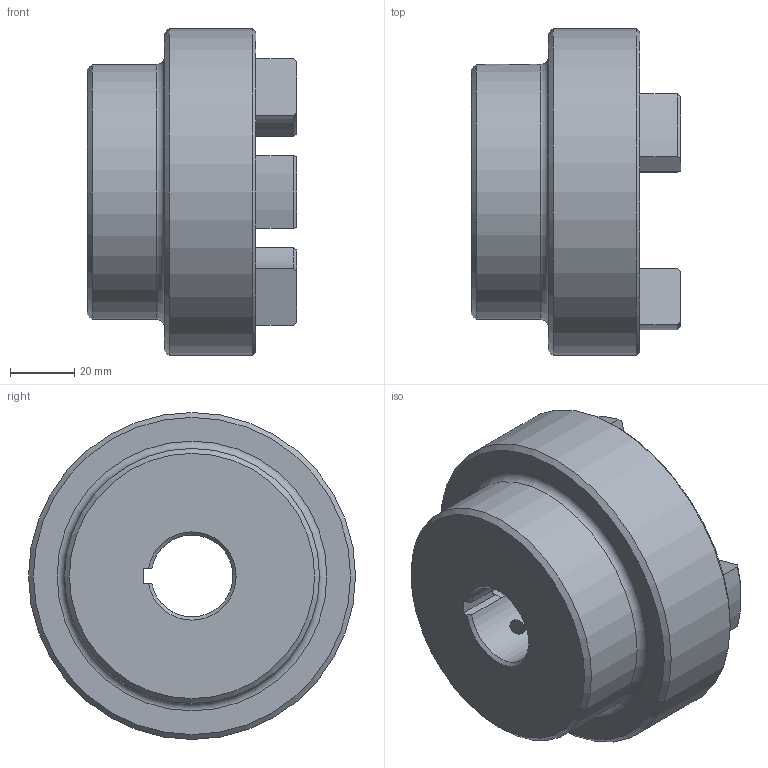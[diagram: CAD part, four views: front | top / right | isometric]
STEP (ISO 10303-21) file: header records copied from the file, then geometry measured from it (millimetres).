
FILE_DESCRIPTION (( 'STEP AP203' ), '1' );
FILE_NAME ('RC4.step', '2024-07-24T17:35:14', ( 'Adlan' ), ( '' ), 'SwSTEP 2.0', 'SolidWorks 2013', '' );
FILE_SCHEMA (( 'CONFIG_CONTROL_DESIGN' ));
Length unit declared in the file: inch
Products named in the file (1): RC4
Bounding box: 65.02 x 101.6 x 101.6 mm (x, y, z)
Volume: 260110.9 mm3; surface area: 41162.7 mm2
Topology: 1 solids, 1 shells, 70 faces, 180 edges, 113 vertices
Faces by surface type: cylinder 26, plane 19, torus 13, cone 12
Full cylindrical faces by diameter (mm): 5.105 x2, 79.248 x1, 101.6 x1
Entity records: 2367 total; most frequent: CARTESIAN_POINT 603, DIRECTION 370, ORIENTED_EDGE 332, EDGE_CURVE 166, AXIS2_PLACEMENT_3D 146, VERTEX_POINT 109, EDGE_LOOP 87, LINE 78
